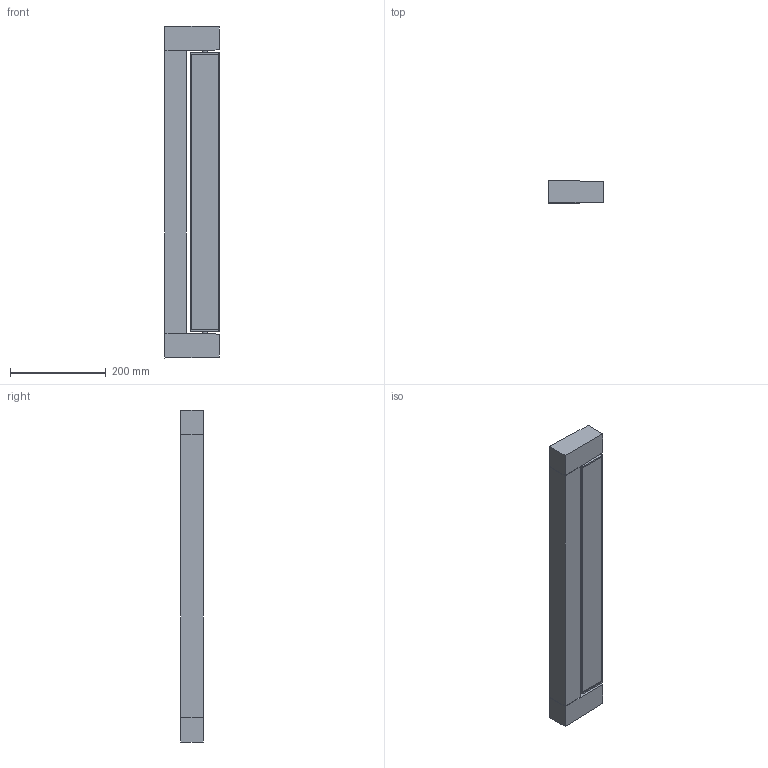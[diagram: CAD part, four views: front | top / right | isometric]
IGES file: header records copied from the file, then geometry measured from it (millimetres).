
Start section: SolidWorks IGES file using analytic representation for surfaces
Global section: file name: C:\Users\tungari.NEMOLIGHTING\Desktop\3D\WALL\BO\3D_ARA_69\DEF\3D_ARA_WALL_69.IGS; native system: SolidWorks 2016; preprocessor: SolidWorks 2016; author: tungari; date: 180312.120308; units: millimetre
Bounding box: 113 x 46.94 x 692.99 mm (x, y, z)
Surface area: 422047.9 mm2 (no closed solid volume)
Topology: 0 solids, 0 shells, 109 faces, 802 edges, 802 vertices
Faces by surface type: bspline 87, revolution 22
